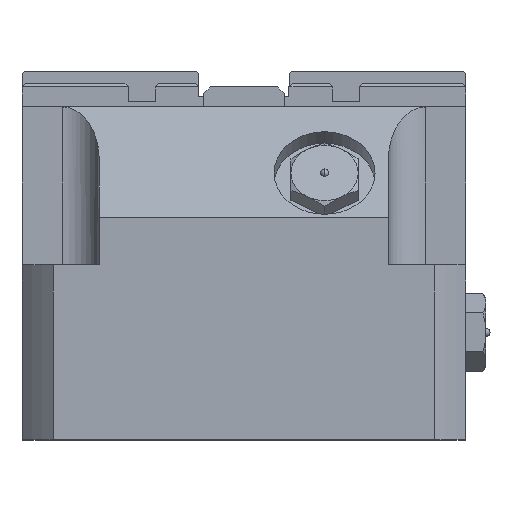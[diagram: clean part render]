
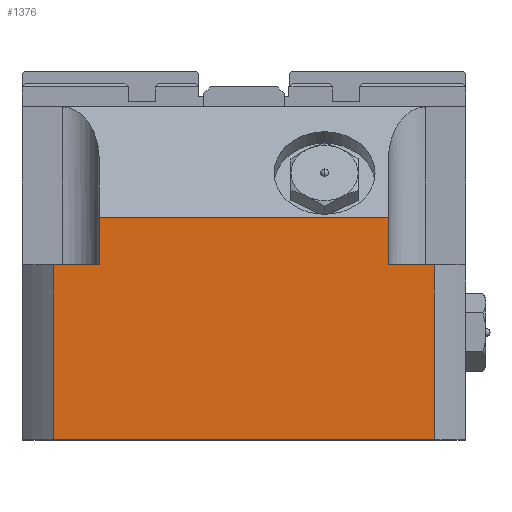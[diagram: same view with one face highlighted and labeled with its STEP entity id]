
A CAD part, top view. The second image highlights one B-rep face of the part: STEP entity #1376.
In plain terms, the highlighted planar face has unit normal (0, 0, 1).
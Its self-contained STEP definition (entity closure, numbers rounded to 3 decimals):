
#1088 = ORIENTED_EDGE ( 'NONE', *, *, #1362, .F. ) ;
#1130 = EDGE_CURVE ( 'NONE', #1149, #1155, #5039, .T. ) ;
#1149 = VERTEX_POINT ( 'NONE', #5056 ) ;
#1155 = VERTEX_POINT ( 'NONE', #5045 ) ;
#1157 = VERTEX_POINT ( 'NONE', #5105 ) ;
#1159 = EDGE_CURVE ( 'NONE', #1157, #1160, #5104, .T. ) ;
#1160 = VERTEX_POINT ( 'NONE', #5100 ) ;
#1222 = EDGE_CURVE ( 'NONE', #1155, #1160, #5187, .T. ) ;
#1294 = EDGE_CURVE ( 'NONE', #1295, #1383, #5281, .T. ) ;
#1295 = VERTEX_POINT ( 'NONE', #5277 ) ;
#1308 = EDGE_LOOP ( 'NONE', ( #1377, #1381, #1384, #1088, #1363, #1364, #1365, #1366 ) ) ;
#1362 = EDGE_CURVE ( 'NONE', #1149, #1295, #5364, .T. ) ;
#1363 = ORIENTED_EDGE ( 'NONE', *, *, #1130, .T. ) ;
#1364 = ORIENTED_EDGE ( 'NONE', *, *, #1222, .T. ) ;
#1365 = ORIENTED_EDGE ( 'NONE', *, *, #1159, .F. ) ;
#1366 = ORIENTED_EDGE ( 'NONE', *, *, #1367, .F. ) ;
#1367 = EDGE_CURVE ( 'NONE', #1379, #1157, #5360, .T. ) ;
#1376 = ADVANCED_FACE ( 'NONE', ( #5401 ), #5400, .F. ) ;
#1377 = ORIENTED_EDGE ( 'NONE', *, *, #1378, .T. ) ;
#1378 = EDGE_CURVE ( 'NONE', #1379, #1380, #5398, .T. ) ;
#1379 = VERTEX_POINT ( 'NONE', #5390 ) ;
#1380 = VERTEX_POINT ( 'NONE', #5391 ) ;
#1381 = ORIENTED_EDGE ( 'NONE', *, *, #1382, .F. ) ;
#1382 = EDGE_CURVE ( 'NONE', #1383, #1380, #5455, .T. ) ;
#1383 = VERTEX_POINT ( 'NONE', #5451 ) ;
#1384 = ORIENTED_EDGE ( 'NONE', *, *, #1294, .F. ) ;
#5036 = DIRECTION ( 'NONE',  ( 0., -1., 0. ) ) ;
#5037 = VECTOR ( 'NONE', #5036, 1000. ) ;
#5038 = CARTESIAN_POINT ( 'NONE',  ( -28.342, 49.5, 33. ) ) ;
#5039 = LINE ( 'NONE', #5038, #5037 ) ;
#5045 = CARTESIAN_POINT ( 'NONE',  ( -28.342, 0., 33. ) ) ;
#5056 = CARTESIAN_POINT ( 'NONE',  ( -28.342, 26., 33. ) ) ;
#5100 = CARTESIAN_POINT ( 'NONE',  ( 28.342, 0., 33. ) ) ;
#5101 = DIRECTION ( 'NONE',  ( 0., -1., 0. ) ) ;
#5102 = VECTOR ( 'NONE', #5101, 1000. ) ;
#5103 = CARTESIAN_POINT ( 'NONE',  ( 28.342, 49.5, 33. ) ) ;
#5104 = LINE ( 'NONE', #5103, #5102 ) ;
#5105 = CARTESIAN_POINT ( 'NONE',  ( 28.342, 26., 33. ) ) ;
#5184 = DIRECTION ( 'NONE',  ( 1., 0., 0. ) ) ;
#5185 = VECTOR ( 'NONE', #5184, 1000. ) ;
#5186 = CARTESIAN_POINT ( 'NONE',  ( -28.342, 0., 33. ) ) ;
#5187 = LINE ( 'NONE', #5186, #5185 ) ;
#5277 = CARTESIAN_POINT ( 'NONE',  ( -21.5, 26., 33. ) ) ;
#5278 = DIRECTION ( 'NONE',  ( 0., 1., 0. ) ) ;
#5279 = VECTOR ( 'NONE', #5278, 1000. ) ;
#5280 = CARTESIAN_POINT ( 'NONE',  ( -21.5, 26., 33. ) ) ;
#5281 = LINE ( 'NONE', #5280, #5279 ) ;
#5360 = LINE ( 'NONE', #5420, #5419 ) ;
#5361 = DIRECTION ( 'NONE',  ( 1., 0., 0. ) ) ;
#5362 = VECTOR ( 'NONE', #5361, 1000. ) ;
#5363 = CARTESIAN_POINT ( 'NONE',  ( -33., 26., 33. ) ) ;
#5364 = LINE ( 'NONE', #5363, #5362 ) ;
#5390 = CARTESIAN_POINT ( 'NONE',  ( 21.5, 26., 33. ) ) ;
#5391 = CARTESIAN_POINT ( 'NONE',  ( 21.5, 33.076, 33. ) ) ;
#5392 = DIRECTION ( 'NONE',  ( 0., 1., 0. ) ) ;
#5393 = VECTOR ( 'NONE', #5392, 1000. ) ;
#5394 = CARTESIAN_POINT ( 'NONE',  ( 21.5, 26., 33. ) ) ;
#5395 = DIRECTION ( 'NONE',  ( -1., 0., 0. ) ) ;
#5396 = DIRECTION ( 'NONE',  ( 0., 0., -1. ) ) ;
#5397 = CARTESIAN_POINT ( 'NONE',  ( -28.342, 49.5, 33. ) ) ;
#5398 = LINE ( 'NONE', #5394, #5393 ) ;
#5399 = AXIS2_PLACEMENT_3D ( 'NONE', #5397, #5396, #5395 ) ;
#5400 = PLANE ( 'NONE',  #5399 ) ;
#5401 = FACE_OUTER_BOUND ( 'NONE', #1308, .T. ) ;
#5418 = DIRECTION ( 'NONE',  ( 1., 0., 0. ) ) ;
#5419 = VECTOR ( 'NONE', #5418, 1000. ) ;
#5420 = CARTESIAN_POINT ( 'NONE',  ( 33., 26., 33. ) ) ;
#5451 = CARTESIAN_POINT ( 'NONE',  ( -21.5, 33.076, 33. ) ) ;
#5452 = DIRECTION ( 'NONE',  ( 1., 0., 0. ) ) ;
#5453 = VECTOR ( 'NONE', #5452, 1000. ) ;
#5454 = CARTESIAN_POINT ( 'NONE',  ( -33., 33.076, 33. ) ) ;
#5455 = LINE ( 'NONE', #5454, #5453 ) ;
